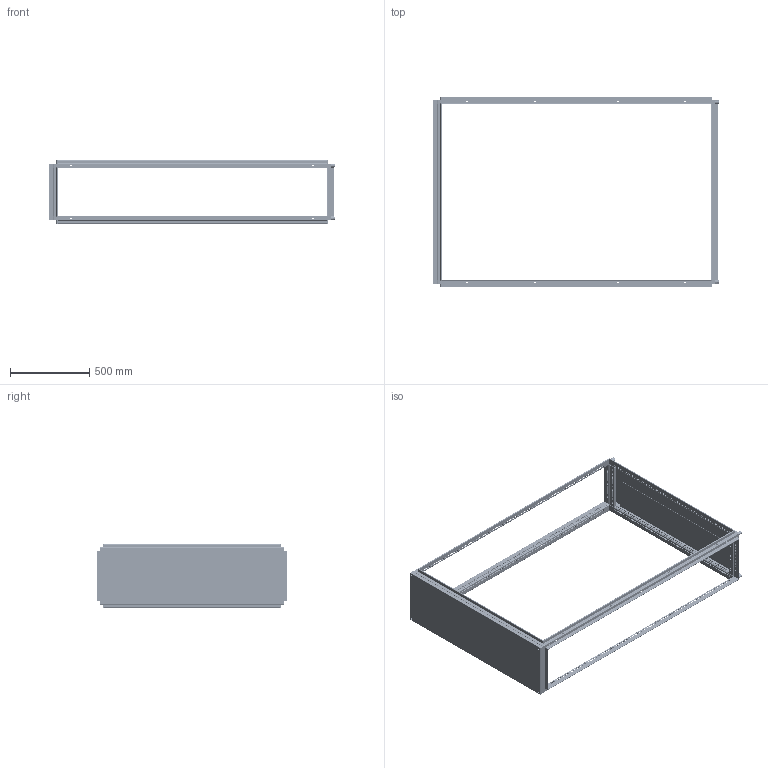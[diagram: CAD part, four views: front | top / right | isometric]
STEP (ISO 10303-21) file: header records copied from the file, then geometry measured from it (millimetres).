
FILE_DESCRIPTION (( 'STEP AP214' ), '1' );
FILE_NAME ('Êàðêàñ1800x1200x400(259547).STEP', '2018-07-05T12:32:48', ( '' ), ( '' ), 'SwSTEP 2.0', 'SolidWorks 2018', '' );
FILE_SCHEMA (( 'AUTOMOTIVE_DESIGN' ));
Length unit declared in the file: millimetre
Products named in the file (11): 忺謤僔1200x400x1800; Ïðîôèëü400; 瓔鍐麃鍧鍷1200; ﾄ濵1200x400; Êðûøà1200x400; 瓔鍼賙鍷1200; Ïðîôèëü1200; 忺謤僔1800x1200x400(259547); 赶鎀鍧; äíî áîêîâèíà400; 橡铘桦铌钼铋1800
Assembly tree (27 placements, depth 3):
  忺謤僔1800x1200x400(259547)
    忺謤僔1200x400x1800
      橡铘桦铌钼铋1800  x4
      Ïðîôèëü400  x4
      赶鎀鍧  x8
      Ïðîôèëü1200  x4
    ﾄ濵1200x400
      äíî áîêîâèíà400  x2
      瓔鍐麃鍧鍷1200
      瓔鍼賙鍷1200
    Êðûøà1200x400
Bounding box: 1800.5 x 1200 x 400 mm (x, y, z)
Volume: 5048570.2 mm3; surface area: 6856636.6 mm2
Topology: 25 solids, 25 shells, 8830 faces, 24836 edges, 16088 vertices
Faces by surface type: plane 5922, cylinder 2876, sphere 24, bspline 8
Entity records: 73593 total; most frequent: CARTESIAN_POINT 12857, ORIENTED_EDGE 12378, DIRECTION 12075, EDGE_CURVE 6189, LINE 4753, VECTOR 4753, VERTEX_POINT 3995, AXIS2_PLACEMENT_3D 3661
